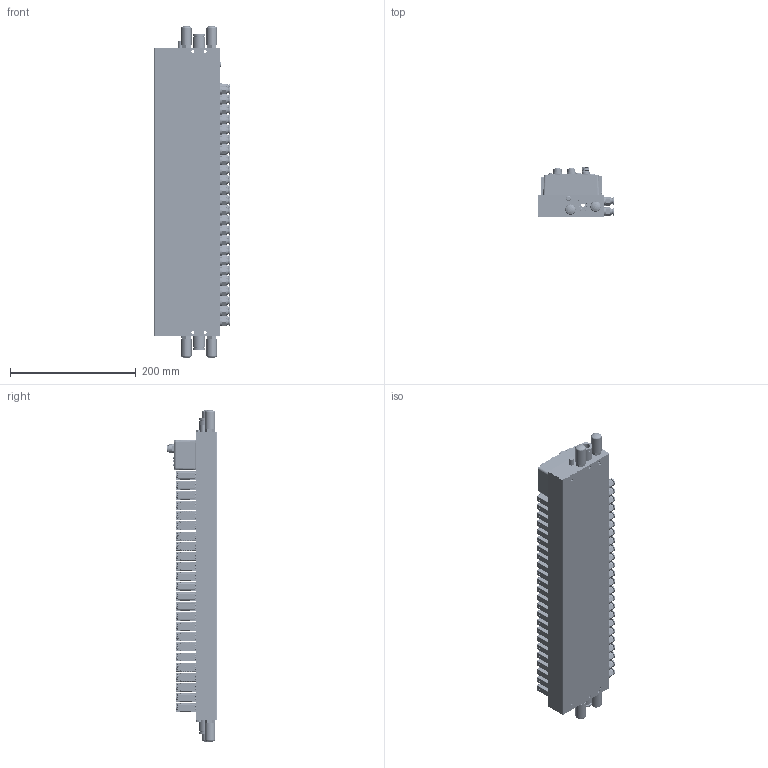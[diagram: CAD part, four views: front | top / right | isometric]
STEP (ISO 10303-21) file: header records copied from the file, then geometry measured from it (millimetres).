
FILE_DESCRIPTION(/* description */ (''),/* implementation_level */ '2;1');
FILE_NAME(/* name */ 'EV-XX-F2-24-X-XX-XX-A-X-C.stp',/* time_stamp */ '2025-09-30T10:24:45+08:00',/* author */ (''),/* organization */ (''),/* preprocessor_version */ 'ST-DEVELOPER v19.4',/* originating_system */ 'SIEMENS PLM Software NX2212.7001',/* authorisation */ '');
FILE_SCHEMA (('AUTOMOTIVE_DESIGN { 1 0 10303 214 3 1 1 1 }'));
Products named in the file (1): EV-EC-F2-A1B9X2-L-12-06-A-I-C_objects
Bounding box: 119.9 x 78.8 x 527 mm (x, y, z)
Volume: 2043112.9 mm3; surface area: 671509.9 mm2
Topology: 80 solids, 157 shells, 22357 faces, 57940 edges, 36650 vertices
Faces by surface type: cylinder 9733, plane 8680, torus 2201, cone 711, sphere 516, bspline 514, extrusion 2
Full cylindrical faces by diameter (mm): 1 x5, 1.05 x5, 1.2 x8, 1.4 x24, 1.5 x24, 1.7 x8, 2.05 x52, 2.15 x2, 2.3 x4, 2.48 x4, 2.5 x3, 2.8 x4, 3.3 x2, 3.446 x6, 3.5 x7, 3.7 x1, 4 x2, 4.134 x5, 4.3 x4, 4.5 x4, 5.1 x48, 5.3 x48, 5.4 x2, 5.5 x146, 6 x1, 6.2 x96, 8 x9, 8.1 x48, 8.3 x1, 8.566 x25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
Entity records: 827633 total; most frequent: CARTESIAN_POINT 154398, DIRECTION 119586, ORIENTED_EDGE 112138, EDGE_CURVE 56069, AXIS2_PLACEMENT_3D 45296, VERTEX_POINT 36054, VECTOR 28994, LINE 28992
